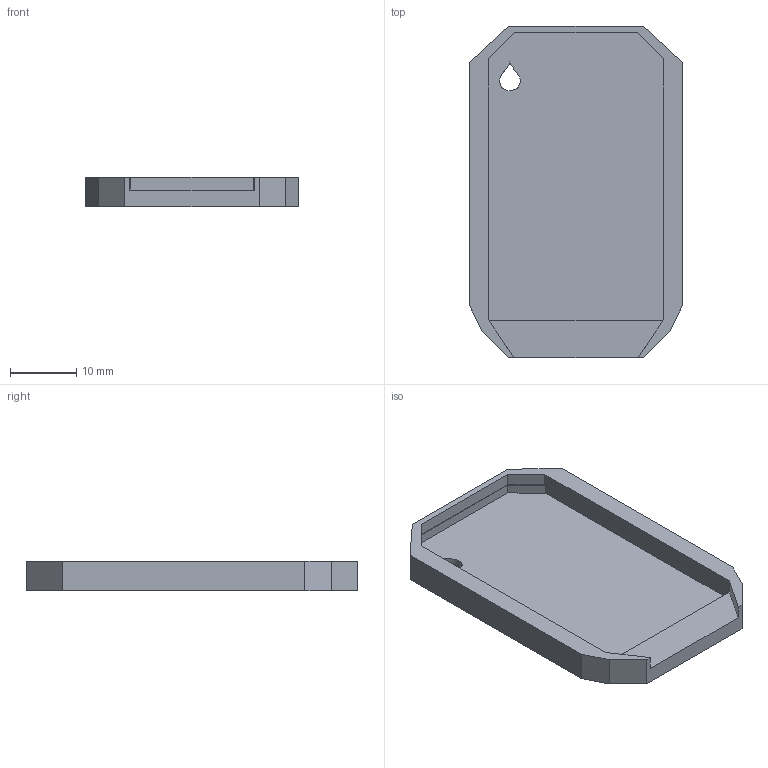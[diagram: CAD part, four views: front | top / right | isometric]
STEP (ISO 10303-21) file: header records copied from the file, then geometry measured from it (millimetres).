
FILE_DESCRIPTION(('Open CASCADE Model'),'2;1');
FILE_NAME('Open CASCADE Shape Model','2026-09-30T23:04:27',('Author'),( 'Open CASCADE'),'Open CASCADE STEP processor 8.0','Open CASCADE 8.0' ,'Unknown');
FILE_SCHEMA(('AP242_MANAGED_MODEL_BASED_3D_ENGINEERING_MIM_LF {1 0 10303 442 1 1 4 }' ));
Length unit declared in the file: millimetre
Products named in the file (1): Open CASCADE STEP translator 8.0 9
Bounding box: 32.4 x 50.2 x 4.5 mm (x, y, z)
Volume: 2725.6 mm3; surface area: 4210.9 mm2
Topology: 1 solids, 1 shells, 32 faces, 90 edges, 60 vertices
Faces by surface type: plane 28, extrusion 4
Entity records: 3106 total; most frequent: CARTESIAN_POINT 1399, DIRECTION 268, VECTOR 210, LINE 206, ORIENTED_EDGE 180, PCURVE 180, DEFINITIONAL_REPRESENTATION 180, EDGE_CURVE 90
